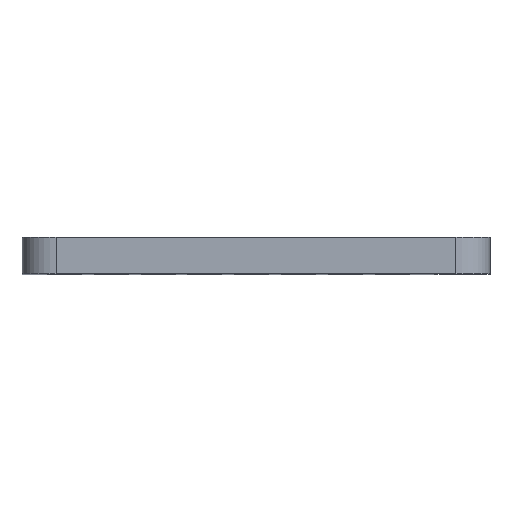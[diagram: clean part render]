
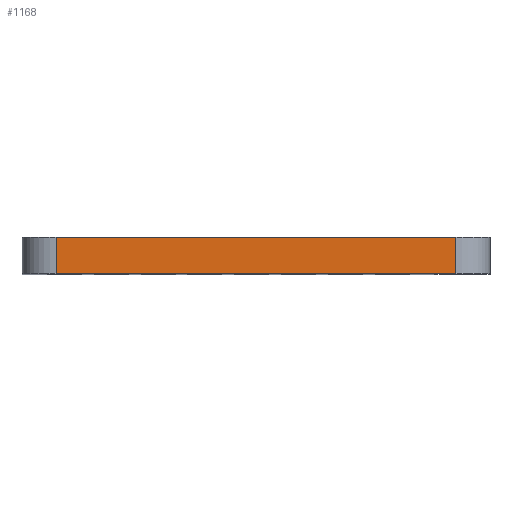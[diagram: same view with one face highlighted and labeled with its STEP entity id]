
A CAD part, top view. The second image highlights one B-rep face of the part: STEP entity #1168.
In plain terms, the highlighted planar face has unit normal (0, 0, 1).
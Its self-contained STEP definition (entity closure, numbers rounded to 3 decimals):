
#17=DIRECTION('',(1.,0.,0.));
#18=VECTOR('',#17,9.4);
#19=CARTESIAN_POINT('',(-4.7,0.,0.));
#20=LINE('',#19,#18);
#223=DIRECTION('',(0.,-1.,0.));
#224=VECTOR('',#223,0.85);
#225=CARTESIAN_POINT('',(4.7,0.85,0.));
#226=LINE('',#225,#224);
#250=DIRECTION('',(0.,-1.,0.));
#251=VECTOR('',#250,0.85);
#252=CARTESIAN_POINT('',(-4.7,0.85,0.));
#253=LINE('',#252,#251);
#407=DIRECTION('',(1.,0.,0.));
#408=VECTOR('',#407,9.4);
#409=CARTESIAN_POINT('',(-4.7,0.85,0.));
#410=LINE('',#409,#408);
#704=CARTESIAN_POINT('',(4.7,0.85,0.));
#705=CARTESIAN_POINT('',(4.7,0.,0.));
#706=VERTEX_POINT('',#704);
#707=VERTEX_POINT('',#705);
#716=CARTESIAN_POINT('',(-4.7,0.85,0.));
#717=VERTEX_POINT('',#716);
#718=CARTESIAN_POINT('',(-4.7,0.,0.));
#719=VERTEX_POINT('',#718);
#1155=CARTESIAN_POINT('',(-5.5,0.,0.));
#1156=DIRECTION('',(0.,0.,1.));
#1157=DIRECTION('',(1.,0.,0.));
#1158=AXIS2_PLACEMENT_3D('',#1155,#1156,#1157);
#1159=PLANE('',#1158);
#1160=ORIENTED_EDGE('',*,*,#1146,.T.);
#1161=ORIENTED_EDGE('',*,*,#925,.F.);
#1163=ORIENTED_EDGE('',*,*,#1162,.F.);
#1165=ORIENTED_EDGE('',*,*,#1164,.T.);
#1166=EDGE_LOOP('',(#1160,#1161,#1163,#1165));
#1167=FACE_OUTER_BOUND('',#1166,.F.);
#925=EDGE_CURVE('',#719,#707,#20,.T.);
#1146=EDGE_CURVE('',#706,#707,#226,.T.);
#1162=EDGE_CURVE('',#717,#719,#253,.T.);
#1164=EDGE_CURVE('',#717,#706,#410,.T.);
#1168=ADVANCED_FACE('',(#1167),#1159,.T.);
